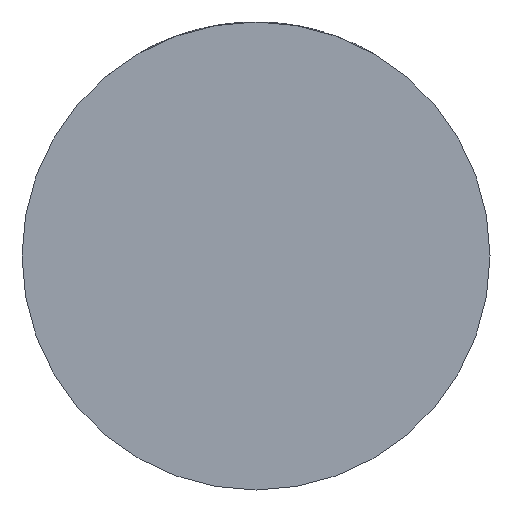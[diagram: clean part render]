
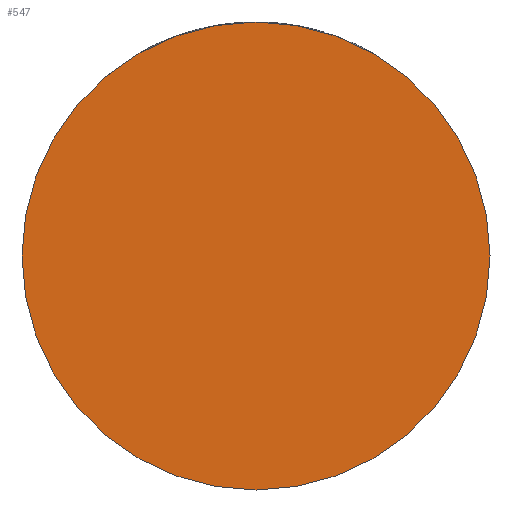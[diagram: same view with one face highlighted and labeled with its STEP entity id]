
A CAD part, front view. The second image highlights one B-rep face of the part: STEP entity #547.
In plain terms, the highlighted planar face has unit normal (0, -1, 0).
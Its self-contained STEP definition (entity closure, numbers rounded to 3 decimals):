
#9 = VERTEX_POINT ( 'NONE', #3042 ) ;
#63 = CARTESIAN_POINT ( 'NONE',  ( 0., -13., -20. ) ) ;
#185 = DIRECTION ( 'NONE',  ( 0., 0., 1. ) ) ;
#252 = EDGE_CURVE ( 'NONE', #9, #270, #2100, .T. ) ;
#270 = VERTEX_POINT ( 'NONE', #63 ) ;
#380 = DIRECTION ( 'NONE',  ( 0., 0., -1. ) ) ;
#547 = ADVANCED_FACE ( 'NONE', ( #4416 ), #3566, .T. ) ;
#727 = CARTESIAN_POINT ( 'NONE',  ( 0., -13., 0. ) ) ;
#882 = CARTESIAN_POINT ( 'NONE',  ( 0., -13., 0. ) ) ;
#1171 = AXIS2_PLACEMENT_3D ( 'NONE', #882, #5020, #3695 ) ;
#1267 = ORIENTED_EDGE ( 'NONE', *, *, #1636, .F. ) ;
#1351 = CIRCLE ( 'NONE', #4615, 20. ) ;
#1509 = AXIS2_PLACEMENT_3D ( 'NONE', #727, #1989, #380 ) ;
#1636 = EDGE_CURVE ( 'NONE', #270, #9, #1351, .T. ) ;
#1727 = DIRECTION ( 'NONE',  ( 0., 1., 0. ) ) ;
#1989 = DIRECTION ( 'NONE',  ( 0., -1., 0. ) ) ;
#1998 = ORIENTED_EDGE ( 'NONE', *, *, #252, .F. ) ;
#2100 = CIRCLE ( 'NONE', #1171, 20. ) ;
#3042 = CARTESIAN_POINT ( 'NONE',  ( 0., -13., 20. ) ) ;
#3401 = CARTESIAN_POINT ( 'NONE',  ( 0., -13., 0. ) ) ;
#3566 = PLANE ( 'NONE',  #1509 ) ;
#3695 = DIRECTION ( 'NONE',  ( 0., 0., 1. ) ) ;
#4416 = FACE_OUTER_BOUND ( 'NONE', #5034, .T. ) ;
#4615 = AXIS2_PLACEMENT_3D ( 'NONE', #3401, #1727, #185 ) ;
#5020 = DIRECTION ( 'NONE',  ( 0., 1., 0. ) ) ;
#5034 = EDGE_LOOP ( 'NONE', ( #1998, #1267 ) ) ;
